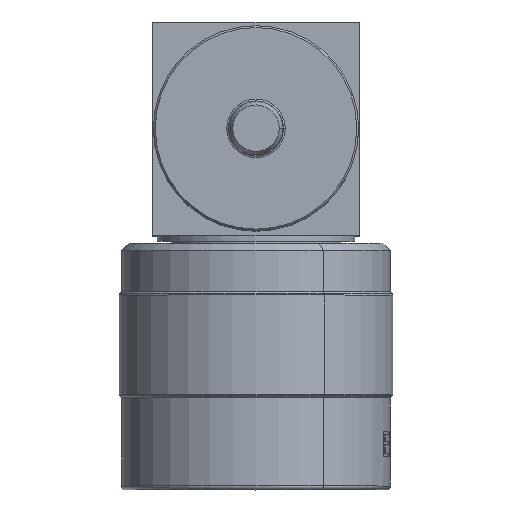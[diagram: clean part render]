
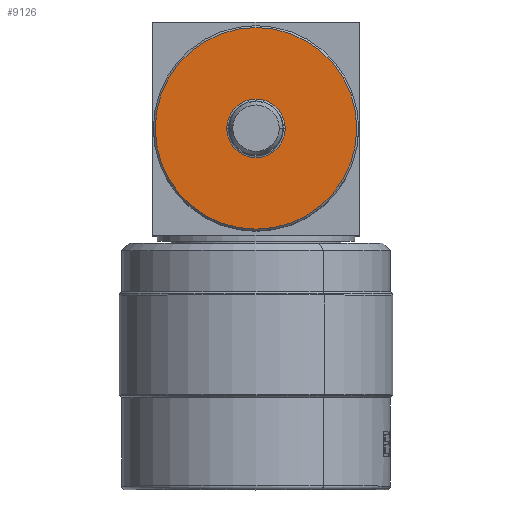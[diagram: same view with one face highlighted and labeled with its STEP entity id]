
A CAD part, top view. The second image highlights one B-rep face of the part: STEP entity #9126.
In plain terms, the highlighted planar face has unit normal (0, 0, 1).
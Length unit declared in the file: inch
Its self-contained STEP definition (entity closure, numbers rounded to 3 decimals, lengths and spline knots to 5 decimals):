
#2232=CARTESIAN_POINT('',(0.,0.6155,1.1145));
#2233=DIRECTION('',(0.,0.,1.));
#2234=DIRECTION('',(1.,0.,0.));
#2235=AXIS2_PLACEMENT_3D('',#2232,#2233,#2234);
#2237=CARTESIAN_POINT('',(0.,0.6155,1.1145));
#2238=DIRECTION('',(0.,0.,1.));
#2239=DIRECTION('',(-1.,0.,0.));
#2240=AXIS2_PLACEMENT_3D('',#2237,#2238,#2239);
#2242=CARTESIAN_POINT('',(0.,0.6155,1.1145));
#2243=DIRECTION('',(0.,0.,-1.));
#2244=DIRECTION('',(1.,0.,0.));
#2245=AXIS2_PLACEMENT_3D('',#2242,#2243,#2244);
#2247=CARTESIAN_POINT('',(0.,0.6155,1.1145));
#2248=DIRECTION('',(0.,0.,-1.));
#2249=DIRECTION('',(-1.,0.,0.));
#2250=AXIS2_PLACEMENT_3D('',#2247,#2248,#2249);
#5616=CARTESIAN_POINT('',(-0.0795,0.6155,1.1145));
#5617=VERTEX_POINT('',#5616);
#5618=CARTESIAN_POINT('',(0.0795,0.6155,1.1145));
#5619=VERTEX_POINT('',#5618);
#6510=CARTESIAN_POINT('',(0.274,0.6155,1.1145));
#6511=CARTESIAN_POINT('',(-0.274,0.6155,1.1145));
#6512=VERTEX_POINT('',#6510);
#6513=VERTEX_POINT('',#6511);
#9110=CARTESIAN_POINT('',(0.,0.6155,1.1145));
#9111=DIRECTION('',(0.,0.,1.));
#9112=DIRECTION('',(1.,0.,0.));
#9113=AXIS2_PLACEMENT_3D('',#9110,#9111,#9112);
#9114=PLANE('',#9113);
#9115=ORIENTED_EDGE('',*,*,#9100,.F.);
#9117=ORIENTED_EDGE('',*,*,#9116,.F.);
#9118=EDGE_LOOP('',(#9115,#9117));
#9119=FACE_OUTER_BOUND('',#9118,.F.);
#9121=ORIENTED_EDGE('',*,*,#9120,.F.);
#9123=ORIENTED_EDGE('',*,*,#9122,.F.);
#9124=EDGE_LOOP('',(#9121,#9123));
#9125=FACE_BOUND('',#9124,.F.);
#9126=ADVANCED_FACE('',(#9119,#9125),#9114,.T.);
#2236=CIRCLE('',#2235,0.274);
#2241=CIRCLE('',#2240,0.274);
#2246=CIRCLE('',#2245,0.0795);
#2251=CIRCLE('',#2250,0.0795);
#9100=EDGE_CURVE('',#6512,#6513,#2236,.T.);
#9116=EDGE_CURVE('',#6513,#6512,#2241,.T.);
#9120=EDGE_CURVE('',#5619,#5617,#2246,.T.);
#9122=EDGE_CURVE('',#5617,#5619,#2251,.T.);
